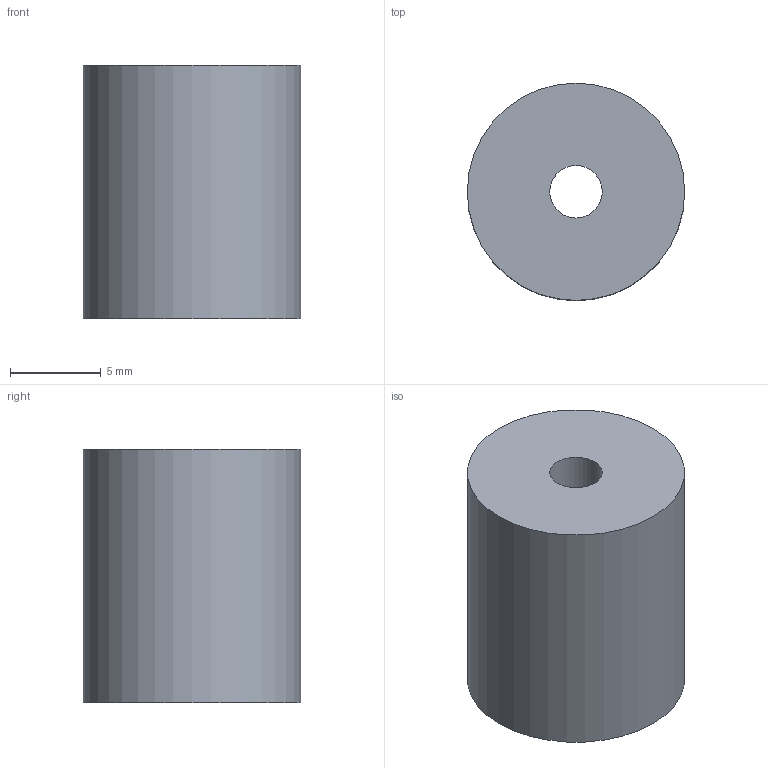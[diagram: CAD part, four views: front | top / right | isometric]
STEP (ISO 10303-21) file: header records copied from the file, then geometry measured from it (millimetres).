
FILE_DESCRIPTION(('Open CASCADE Model'),'2;1');
FILE_NAME('Open CASCADE Shape Model','2026-10-11T20:53:56',('Author'),( 'Open CASCADE'),'Open CASCADE STEP processor 7.8','Open CASCADE 7.8' ,'Unknown');
FILE_SCHEMA(('AUTOMOTIVE_DESIGN { 1 0 10303 214 1 1 1 1 }'));
Length unit declared in the file: millimetre
Products named in the file (1): Open CASCADE STEP translator 7.8 12
Bounding box: 12 x 12 x 14 mm (x, y, z)
Volume: 967.4 mm3; surface area: 1060.4 mm2
Topology: 1 solids, 1 shells, 6 faces, 9 edges, 6 vertices
Faces by surface type: cylinder 3, plane 3
Full cylindrical faces by diameter (mm): 2.9 x1, 8 x1, 12 x1
Entity records: 270 total; most frequent: DIRECTION 47, CARTESIAN_POINT 40, ORIENTED_EDGE 18, PCURVE 18, DEFINITIONAL_REPRESENTATION 18, LINE 15, VECTOR 15, AXIS2_PLACEMENT_3D 13
